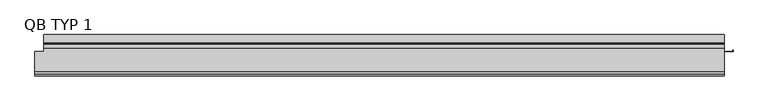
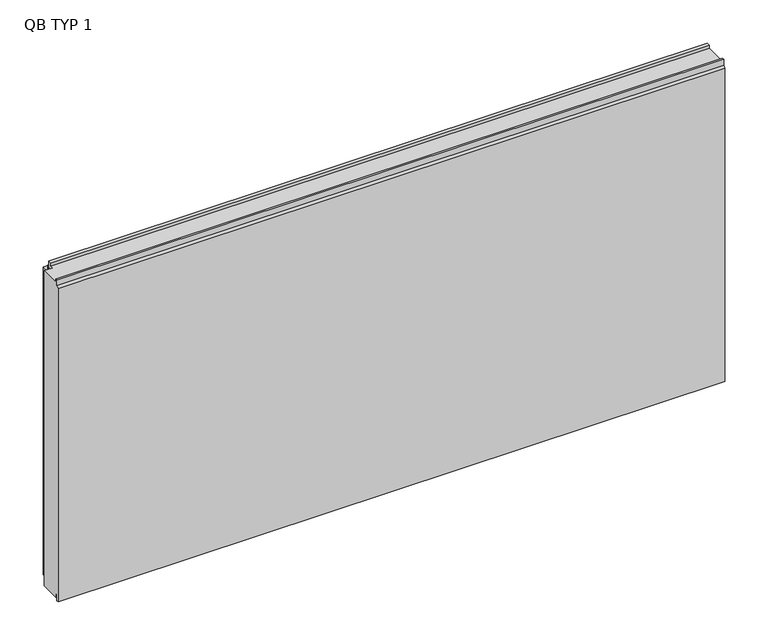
"""IFC4 building model written with IfcOpenShell, lengths in millimetres: plate geometry, TR_C_H_QBISS_Panel : QB TYP 1."""

from ifc_helpers import new_model, si_unit, frame, origin, place, context, project, spatial, polyline, outline, extrude, faceted_brep, source, transform, mapped, element, save


def qb_typ_1_3ef9bbf9(model_context):
    return source(origin(), model_context, "Body", "SolidModel", [
        extrude(outline(polyline([(1012.5, -49.0), (987.3, -49.0), (987.3, -48.2), (1011.7, -48.2), (1011.7, -44.0), (1012.5, -44.0), (1012.5, -49.0)])), frame((0.0, 0.0, 54.0), z_axis=(0.0, 0.0, 1.0), x_axis=(1.0, 0.0, 0.0)), (0.0, 0.0, 1.0), 862.0),
        faceted_brep([(987.5, -108.0, 1000.0), (987.5, -108.0, 1010.0), (987.5, -114.0, 1010.0), (987.5, -114.0, 992.0), (987.5, -120.0, 986.0), (987.5, -120.0, -8.0), (987.5, -114.0, -8.0), (987.5, -114.0, 13.0), (987.5, -108.0, 13.0), (987.5, -108.0, 0.0), (987.5, -49.0, 0.0), (987.5, -49.0, 1000.0), (-1012.4, -108.0, 0.0), (-1012.4, -108.0, 13.0), (-1012.4, -114.0, 13.0), (-1012.4, -114.0, -8.0), (-1012.4, -120.0, -8.0), (-1012.4, -120.0, 986.0), (-1012.4, -114.0, 992.0), (-1012.4, -114.0, 1010.0), (-1012.4, -108.0, 1010.0), (-1012.4, -108.0, 1000.0), (-1012.4, -49.0, 1000.0), (-1012.4, -49.0, 0.0), (-987.3, -49.0, 0.0), (-987.3, -39.0, 0.0), (987.3, -39.0, 0.0), (987.3, -49.0, 0.0), (-987.3, -39.0, 13.0), (987.3, -39.0, 13.0), (-987.3, -29.0, 13.0), (987.3, -29.0, 13.0), (-987.3, -29.0, -4.0), (987.3, -29.0, -4.0), (-987.3, 0.0, -4.0), (987.3, 0.0, -4.0), (-987.3, 0.0, 973.0), (987.3, 0.0, 973.0), (-987.3, -29.0, 973.0), (987.3, -29.0, 973.0), (-987.3, -29.0, 1010.0), (987.3, -29.0, 1010.0), (-987.3, -39.0, 1010.0), (987.3, -39.0, 1010.0), (-987.3, -39.0, 1000.0), (987.3, -39.0, 1000.0), (987.3, -49.0, 1000.0), (-987.3, -49.0, 1000.0)], [[[0, 1, 2, 3, 4, 5, 6, 7, 8, 9, 10, 11]], [[12, 13, 14, 15, 16, 17, 18, 19, 20, 21, 22, 23]], [[9, 12, 23, 24, 25, 26, 27, 10]], [[26, 25, 28, 29]], [[29, 28, 30, 31]], [[31, 30, 32, 33]], [[33, 32, 34, 35]], [[35, 34, 36, 37]], [[37, 36, 38, 39]], [[39, 38, 40, 41]], [[41, 40, 42, 43]], [[43, 42, 44, 45]], [[21, 0, 11, 46, 45, 44, 47, 22]], [[1, 0, 21, 20]], [[2, 1, 20, 19]], [[3, 2, 19, 18]], [[4, 3, 18, 17]], [[5, 4, 17, 16]], [[6, 5, 16, 15]], [[7, 6, 15, 14]], [[8, 7, 14, 13]], [[9, 8, 13, 12]], [[47, 24, 23, 22]], [[24, 47, 44, 42, 40, 38, 36, 34, 32, 30, 28, 25]], [[46, 27, 26, 29, 31, 33, 35, 37, 39, 41, 43, 45]], [[27, 46, 11, 10]]]),
        extrude(outline(polyline([(-24.0, 994.5), (-24.0, 974.5), (-25.4998317, 974.5), (-25.4998317, 981.3023028), (-27.9998293, 981.3023028), (-27.9998293, 980.5023028), (-28.7998428, 980.5023028), (-28.7998428, 988.5023593), (-27.9998293, 988.5023593), (-27.9998293, 987.7023593), (-25.4998317, 987.7023593), (-25.4998317, 994.5), (-24.0, 994.5)])), frame((-987.3, 0.0, 0.0), z_axis=(1.0, 0.0, 0.0), x_axis=(0.0, 1.0, 0.0)), (0.0, 0.0, 1.0), 1974.6),
    ])


if __name__ == "__main__":
    model = new_model("IFC4")
    model_context = context("Model", 3, world=origin())
    ifc_project = project(units=[si_unit("LENGTHUNIT", "METRE", prefix="MILLI")], contexts=[model_context])
    site = spatial("IfcSite", under=ifc_project)
    building = spatial("IfcBuilding", under=site)
    placement = place(None, origin())
    qb_typ_1_shape = qb_typ_1_3ef9bbf9(model_context)
    element("IfcPlate", 1, ObjectType="TR_C_H_QBISS_Panel : QB TYP 1", at=placement, inside=building, context=model_context, shape_type="MappedRepresentation", body=[
        mapped(qb_typ_1_shape, transform((0.0, 0.0, 0.0), x_axis=(1.0, 0.0, 0.0), y_axis=(0.0, 1.0, 0.0), z_axis=(0.0, 0.0, 1.0))),
    ])
    save(model, "model.ifc")
